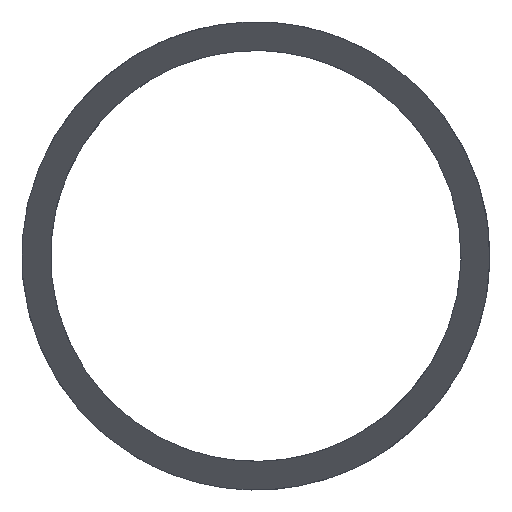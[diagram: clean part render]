
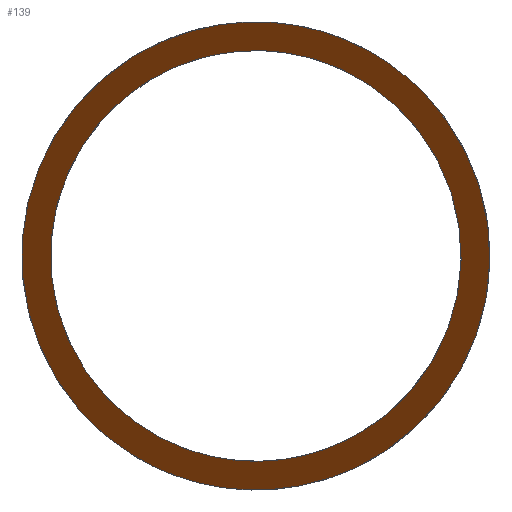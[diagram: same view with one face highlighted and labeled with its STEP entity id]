
A CAD part, left-side view. The second image highlights one B-rep face of the part: STEP entity #139.
In plain terms, the highlighted planar face has unit normal (-0.707, 0, -0.707).
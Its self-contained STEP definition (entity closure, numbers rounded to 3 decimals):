
#62=PLANE('',#131);
#66=ORIENTED_EDGE('',*,*,#80,.F.);
#67=ORIENTED_EDGE('',*,*,#82,.F.);
#72=ELLIPSE('',#129,29.981,21.2);
#74=ELLIPSE('',#132,26.304,18.6);
#76=VERTEX_POINT('',#117);
#78=VERTEX_POINT('',#122);
#80=EDGE_CURVE('',#76,#76,#72,.T.);
#82=EDGE_CURVE('',#78,#78,#74,.T.);
#86=EDGE_LOOP('',(#66));
#87=EDGE_LOOP('',(#67));
#94=FACE_BOUND('',#86,.T.);
#95=FACE_BOUND('',#87,.T.);
#102=DIRECTION('',(0.707,0.,0.707));
#103=DIRECTION('',(-0.707,0.,0.707));
#106=DIRECTION('',(-0.707,0.,-0.707));
#107=DIRECTION('',(0.,0.707,0.));
#108=DIRECTION('',(-0.707,0.,-0.707));
#109=DIRECTION('',(0.707,0.,-0.707));
#117=CARTESIAN_POINT('',(-1929.185,0.787,21.185));
#118=CARTESIAN_POINT('',(-1908.,0.,0.));
#121=CARTESIAN_POINT('',(8447.339,0.,-10355.339));
#122=CARTESIAN_POINT('',(-1926.59,-0.603,18.59));
#123=CARTESIAN_POINT('',(-1908.,0.,0.));
#129=AXIS2_PLACEMENT_3D('',#118,#102,#103);
#131=AXIS2_PLACEMENT_3D('',#121,#106,#107);
#132=AXIS2_PLACEMENT_3D('',#123,#108,#109);
#139=ADVANCED_FACE('',(#94,#95),#62,.T.);
